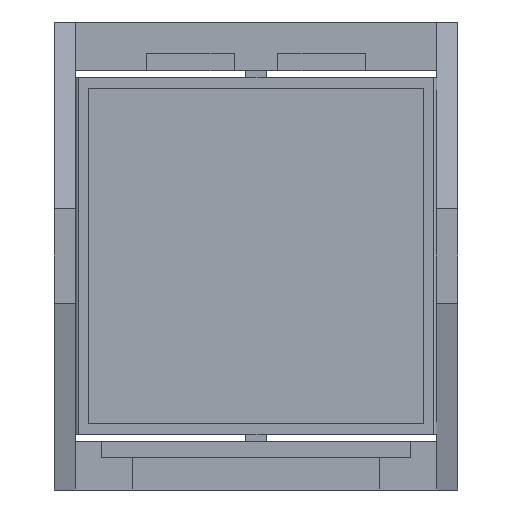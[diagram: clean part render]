
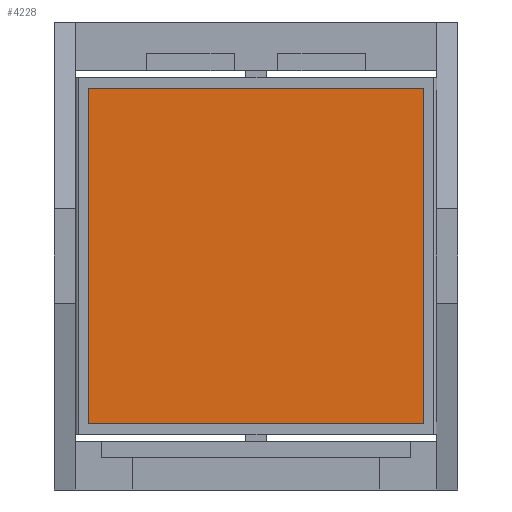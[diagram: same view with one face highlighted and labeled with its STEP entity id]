
A CAD part, front view. The second image highlights one B-rep face of the part: STEP entity #4228.
In plain terms, the highlighted planar face has unit normal (0, -1, 0).
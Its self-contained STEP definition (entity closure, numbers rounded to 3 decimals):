
#297 = ORIENTED_EDGE ( 'NONE', *, *, #2350, .F. ) ;
#356 = CARTESIAN_POINT ( 'NONE',  ( 15.228, -3.744, -10.991 ) ) ;
#590 = DIRECTION ( 'NONE',  ( 0., 0., 1. ) ) ;
#621 = VECTOR ( 'NONE', #590, 1000. ) ;
#668 = VECTOR ( 'NONE', #3160, 1000. ) ;
#689 = EDGE_LOOP ( 'NONE', ( #4902, #297, #4758, #6595 ) ) ;
#1030 = CARTESIAN_POINT ( 'NONE',  ( -7.772, -3.744, -10.991 ) ) ;
#1171 = VECTOR ( 'NONE', #2627, 1000. ) ;
#1200 = VERTEX_POINT ( 'NONE', #2670 ) ;
#1230 = LINE ( 'NONE', #3501, #5633 ) ;
#1407 = CARTESIAN_POINT ( 'NONE',  ( -7.772, -3.744, -10.991 ) ) ;
#1467 = EDGE_CURVE ( 'NONE', #1200, #6283, #6084, .T. ) ;
#1621 = CARTESIAN_POINT ( 'NONE',  ( 15.228, -3.744, 12.009 ) ) ;
#1765 = PLANE ( 'NONE',  #7292 ) ;
#1946 = DIRECTION ( 'NONE',  ( 0., 0., 1. ) ) ;
#2350 = EDGE_CURVE ( 'NONE', #3279, #1200, #5786, .T. ) ;
#2627 = DIRECTION ( 'NONE',  ( 0., 0., -1. ) ) ;
#2670 = CARTESIAN_POINT ( 'NONE',  ( -7.772, -3.744, -10.991 ) ) ;
#2772 = VERTEX_POINT ( 'NONE', #1621 ) ;
#2926 = CARTESIAN_POINT ( 'NONE',  ( -7.772, -3.744, 12.009 ) ) ;
#3160 = DIRECTION ( 'NONE',  ( -1., 0., 0. ) ) ;
#3279 = VERTEX_POINT ( 'NONE', #5933 ) ;
#3501 = CARTESIAN_POINT ( 'NONE',  ( -7.772, -3.744, 12.009 ) ) ;
#3801 = EDGE_CURVE ( 'NONE', #2772, #3279, #5398, .T. ) ;
#4228 = ADVANCED_FACE ( 'NONE', ( #5231 ), #1765, .F. ) ;
#4747 = DIRECTION ( 'NONE',  ( 0., 1., 0. ) ) ;
#4758 = ORIENTED_EDGE ( 'NONE', *, *, #3801, .F. ) ;
#4902 = ORIENTED_EDGE ( 'NONE', *, *, #1467, .F. ) ;
#5231 = FACE_OUTER_BOUND ( 'NONE', #689, .T. ) ;
#5398 = LINE ( 'NONE', #356, #1171 ) ;
#5633 = VECTOR ( 'NONE', #6910, 1000. ) ;
#5733 = CARTESIAN_POINT ( 'NONE',  ( -7.772, -3.744, 12.009 ) ) ;
#5786 = LINE ( 'NONE', #1407, #668 ) ;
#5933 = CARTESIAN_POINT ( 'NONE',  ( 15.228, -3.744, -10.991 ) ) ;
#6084 = LINE ( 'NONE', #1030, #621 ) ;
#6248 = EDGE_CURVE ( 'NONE', #6283, #2772, #1230, .T. ) ;
#6283 = VERTEX_POINT ( 'NONE', #5733 ) ;
#6595 = ORIENTED_EDGE ( 'NONE', *, *, #6248, .F. ) ;
#6910 = DIRECTION ( 'NONE',  ( 1., 0., 0. ) ) ;
#7292 = AXIS2_PLACEMENT_3D ( 'NONE', #2926, #4747, #1946 ) ;
